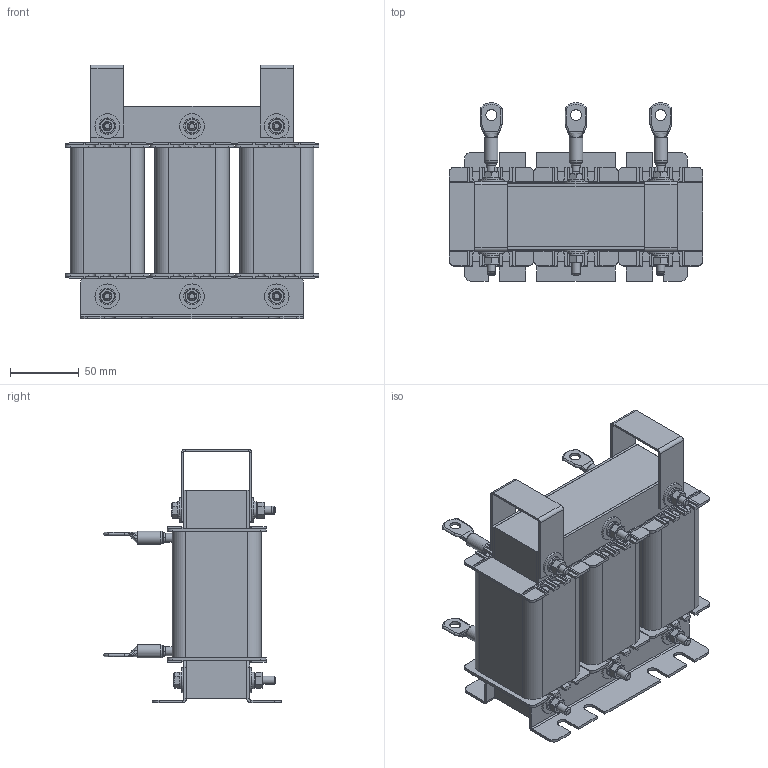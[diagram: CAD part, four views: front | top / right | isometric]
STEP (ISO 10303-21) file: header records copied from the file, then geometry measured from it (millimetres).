
FILE_DESCRIPTION(('STEP AP203'), '1');
FILE_NAME('Ñåòåâîé äðîññåëü _ ISF-22_46.5-4', '', ('UNSPECIFIED'), ('UNSPECIFIED'), 'C3D Converter', 'C3D Toolkit', '');
FILE_SCHEMA(('CONFIG_CONTROL_DESIGN'));
Length unit declared in the file: millimetre
Products named in the file (18): ISF-22_46.5-4; DIN 125 (A); ГОСТ 15591-70; DIN 127 (A); DIN 934
Assembly tree (69 placements, depth 3):
  ISF-22_46.5-4
    ISF-22_46.5-4
    ISF-22_46.5-4  x2
    ISF-22_46.5-4  x6
    ISF-22_46.5-4  x3
    ISF-22_46.5-4  x2
    (unnamed)  x12
      (unnamed)
    DIN 125 (A)  x12
      (unnamed)
    ГОСТ 15591-70  x6
      (unnamed)
    DIN 127 (A)  x6
      (unnamed)
    DIN 934  x6
      (unnamed)
    ISF-22_46.5-4  x2
    (unnamed)  x6
Bounding box: 185 x 129.96 x 185 mm (x, y, z)
Volume: 1447543.8 mm3; surface area: 366507.4 mm2
Topology: 71 solids, 71 shells, 1360 faces, 3342 edges, 2100 vertices
Faces by surface type: plane 884, cylinder 260, cone 102, bspline 84, torus 30
Full cylindrical faces by diameter (mm): 4.917 x6, 6 x37, 6.4 x24, 6.6 x9, 8 x12, 8.8 x6, 9.8 x6, 12 x12, 18 x12
Entity records: 14034 total; most frequent: CARTESIAN_POINT 4207, DIRECTION 1497, ORIENTED_EDGE 1398, EDGE_CURVE 699, AXIS2_PLACEMENT_3D 521, VERTEX_POINT 470, LINE 455, VECTOR 455
